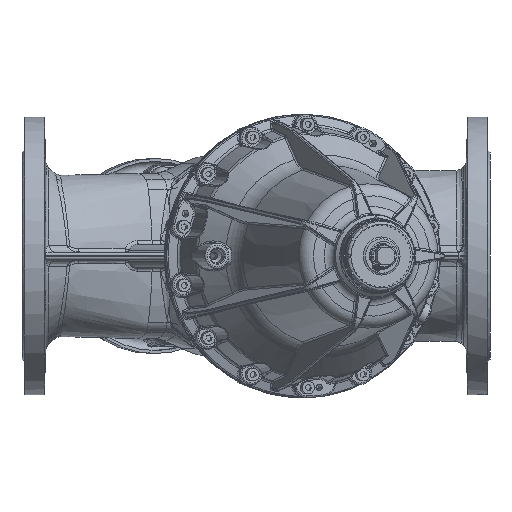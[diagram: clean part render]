
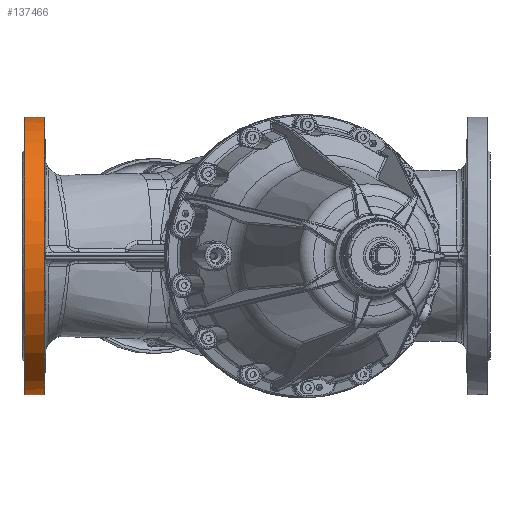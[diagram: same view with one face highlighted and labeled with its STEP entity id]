
A CAD part, front view. The second image highlights one B-rep face of the part: STEP entity #137466.
In plain terms, the highlighted cylindrical face has radius 142.5 mm (diameter 285 mm), a partial arc.
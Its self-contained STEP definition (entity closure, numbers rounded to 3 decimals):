
#41464 = AXIS2_PLACEMENT_3D ( 'NONE', #41610, #41608, #41606 ) ;
#41533 = CIRCLE ( 'NONE', #41464, 142.5 ) ;
#41606 = DIRECTION ( 'NONE',  ( 0., 0., -1. ) ) ;
#41608 = DIRECTION ( 'NONE',  ( 1., 0., 0. ) ) ;
#41610 = CARTESIAN_POINT ( 'NONE',  ( -204., 0., 0. ) ) ;
#42439 = CARTESIAN_POINT ( 'NONE',  ( -204., 141.065, -20.171 ) ) ;
#42446 = CARTESIAN_POINT ( 'NONE',  ( -204., 141.065, 20.171 ) ) ;
#84003 = CARTESIAN_POINT ( 'NONE',  ( -203.274, 141.5, 16.852 ) ) ;
#84453 = CARTESIAN_POINT ( 'NONE',  ( -203.274, 141.5, -16.852 ) ) ;
#84475 = CYLINDRICAL_SURFACE ( 'NONE', #84648, 142.5 ) ;
#84482 = DIRECTION ( 'NONE',  ( 0., 0., 1. ) ) ;
#84646 = FACE_OUTER_BOUND ( 'NONE', #137492, .T. ) ;
#84648 = AXIS2_PLACEMENT_3D ( 'NONE', #84659, #84770, #84482 ) ;
#84659 = CARTESIAN_POINT ( 'NONE',  ( -164.588, 0., 0. ) ) ;
#84770 = DIRECTION ( 'NONE',  ( -1., 0., 0. ) ) ;
#85214 = CARTESIAN_POINT ( 'NONE',  ( -203.394, 141.469, -17.113 ) ) ;
#85216 = CARTESIAN_POINT ( 'NONE',  ( -203.274, 141.5, -16.852 ) ) ;
#85221 = B_SPLINE_CURVE_WITH_KNOTS ( 'NONE', 3,
 ( #85216, #85214, #85334, #85332, #85331, #85330, #85327, #85325, #85323 ),
 .UNSPECIFIED., .F., .F.,
 ( 4, 2, 1, 2, 4 ),
 ( 0.005, 0.006, 0.007, 0.008, 0.009 ),
 .UNSPECIFIED. ) ;
#85222 = CARTESIAN_POINT ( 'NONE',  ( -164.588, 141.5, -16.852 ) ) ;
#85224 = LINE ( 'NONE', #85222, #85322 ) ;
#85321 = DIRECTION ( 'NONE',  ( 1., 0., 0. ) ) ;
#85322 = VECTOR ( 'NONE', #85321, 1000. ) ;
#85323 = CARTESIAN_POINT ( 'NONE',  ( -204., 141.065, -20.171 ) ) ;
#85325 = CARTESIAN_POINT ( 'NONE',  ( -204., 141.106, -19.884 ) ) ;
#85327 = CARTESIAN_POINT ( 'NONE',  ( -203.984, 141.146, -19.597 ) ) ;
#85330 = CARTESIAN_POINT ( 'NONE',  ( -203.923, 141.224, -19.029 ) ) ;
#85331 = CARTESIAN_POINT ( 'NONE',  ( -203.831, 141.299, -18.469 ) ) ;
#85332 = CARTESIAN_POINT ( 'NONE',  ( -203.681, 141.369, -17.922 ) ) ;
#85334 = CARTESIAN_POINT ( 'NONE',  ( -203.5, 141.436, -17.381 ) ) ;
#86122 = LINE ( 'NONE', #86248, #86246 ) ;
#86222 = DIRECTION ( 'NONE',  ( -1., 0., 0. ) ) ;
#86246 = VECTOR ( 'NONE', #86222, 1000. ) ;
#86248 = CARTESIAN_POINT ( 'NONE',  ( -164.588, 141.5, 16.852 ) ) ;
#89503 = CARTESIAN_POINT ( 'NONE',  ( -224., 141.5, 16.852 ) ) ;
#89512 = CARTESIAN_POINT ( 'NONE',  ( -224., 141.5, -16.852 ) ) ;
#89699 = CARTESIAN_POINT ( 'NONE',  ( -203.274, 141.5, 16.852 ) ) ;
#89701 = CARTESIAN_POINT ( 'NONE',  ( -203.393, 141.469, 17.111 ) ) ;
#89703 = CARTESIAN_POINT ( 'NONE',  ( -203.499, 141.437, 17.379 ) ) ;
#89705 = CARTESIAN_POINT ( 'NONE',  ( -203.681, 141.368, 17.924 ) ) ;
#89707 = CARTESIAN_POINT ( 'NONE',  ( -203.757, 141.333, 18.199 ) ) ;
#89709 = CARTESIAN_POINT ( 'NONE',  ( -203.938, 141.224, 19.032 ) ) ;
#89711 = CARTESIAN_POINT ( 'NONE',  ( -204., 141.147, 19.596 ) ) ;
#89713 = CARTESIAN_POINT ( 'NONE',  ( -204., 141.065, 20.171 ) ) ;
#89720 = B_SPLINE_CURVE_WITH_KNOTS ( 'NONE', 3,
 ( #89713, #89711, #89709, #89707, #89705, #89703, #89701, #89699 ),
 .UNSPECIFIED., .F., .F.,
 ( 4, 2, 2, 4 ),
 ( 0., 0.002, 0.003, 0.003 ),
 .UNSPECIFIED. ) ;
#89783 = CIRCLE ( 'NONE', #89826, 142.5 ) ;
#89821 = DIRECTION ( 'NONE',  ( 0., 0., 1. ) ) ;
#89823 = DIRECTION ( 'NONE',  ( -1., 0., 0. ) ) ;
#89824 = CARTESIAN_POINT ( 'NONE',  ( -224., 0., 0. ) ) ;
#89826 = AXIS2_PLACEMENT_3D ( 'NONE', #89824, #89823, #89821 ) ;
#135262 = EDGE_CURVE ( 'NONE', #135511, #135502, #41533, .T. ) ;
#135502 = VERTEX_POINT ( 'NONE', #42439 ) ;
#135511 = VERTEX_POINT ( 'NONE', #42446 ) ;
#137271 = VERTEX_POINT ( 'NONE', #89512 ) ;
#137279 = VERTEX_POINT ( 'NONE', #89503 ) ;
#137292 = EDGE_CURVE ( 'NONE', #135511, #137347, #89720, .T. ) ;
#137316 = EDGE_CURVE ( 'NONE', #137271, #137279, #89783, .T. ) ;
#137323 = ORIENTED_EDGE ( 'NONE', *, *, #137558, .T. ) ;
#137347 = VERTEX_POINT ( 'NONE', #84003 ) ;
#137393 = VERTEX_POINT ( 'NONE', #84453 ) ;
#137447 = ORIENTED_EDGE ( 'NONE', *, *, #135262, .F. ) ;
#137466 = ADVANCED_FACE ( 'NONE', ( #84646 ), #84475, .T. ) ;
#137471 = ORIENTED_EDGE ( 'NONE', *, *, #137316, .F. ) ;
#137492 = EDGE_LOOP ( 'NONE', ( #137471, #137323, #137678, #137447, #137687, #137674 ) ) ;
#137549 = EDGE_CURVE ( 'NONE', #137393, #135502, #85221, .T. ) ;
#137558 = EDGE_CURVE ( 'NONE', #137271, #137393, #85224, .T. ) ;
#137674 = ORIENTED_EDGE ( 'NONE', *, *, #137684, .T. ) ;
#137678 = ORIENTED_EDGE ( 'NONE', *, *, #137549, .T. ) ;
#137684 = EDGE_CURVE ( 'NONE', #137347, #137279, #86122, .T. ) ;
#137687 = ORIENTED_EDGE ( 'NONE', *, *, #137292, .T. ) ;
